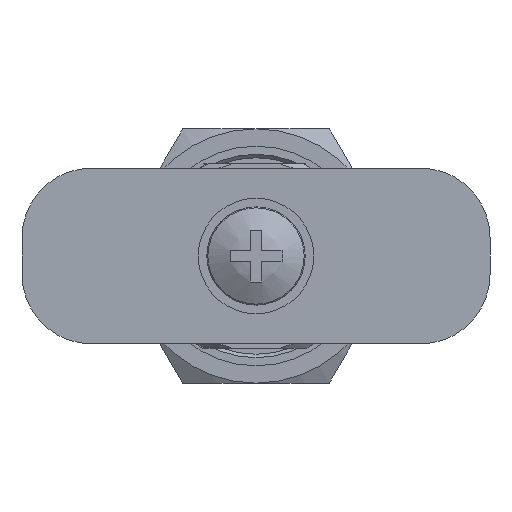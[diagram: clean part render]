
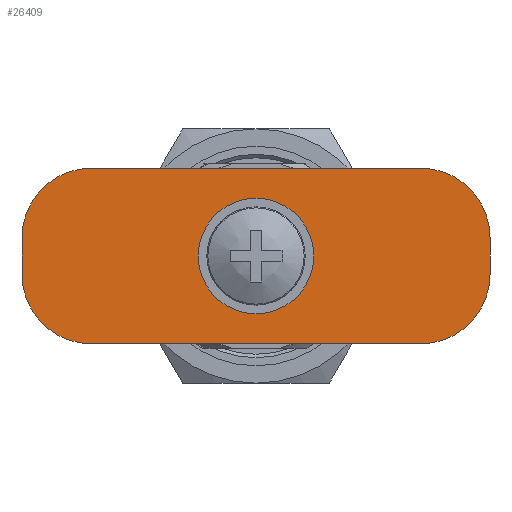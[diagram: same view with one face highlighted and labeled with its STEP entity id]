
A CAD part, front view. The second image highlights one B-rep face of the part: STEP entity #26409.
In plain terms, the highlighted planar face has unit normal (0, -1, 0) as drawn and (0, 0, 1) by its records, which use the part's own axes.
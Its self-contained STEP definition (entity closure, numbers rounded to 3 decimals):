
#502 = CARTESIAN_POINT ( 'NONE',  ( 1.6, -20.25, 1. ) ) ;
#572 = ORIENTED_EDGE ( 'NONE', *, *, #2753, .T. ) ;
#971 = DIRECTION ( 'NONE',  ( -1., 0., 0. ) ) ;
#1294 = CARTESIAN_POINT ( 'NONE',  ( 0., 0., 1. ) ) ;
#1646 = ORIENTED_EDGE ( 'NONE', *, *, #17206, .F. ) ;
#1907 = DIRECTION ( 'NONE',  ( 1., 0., 0. ) ) ;
#2309 = DIRECTION ( 'NONE',  ( 0., 0., -1. ) ) ;
#2506 = LINE ( 'NONE', #24547, #21908 ) ;
#2753 = EDGE_CURVE ( 'NONE', #8732, #21338, #5610, .T. ) ;
#3003 = ORIENTED_EDGE ( 'NONE', *, *, #15079, .F. ) ;
#3328 = CARTESIAN_POINT ( 'NONE',  ( -7.6, 20.25, 1. ) ) ;
#3741 = CARTESIAN_POINT ( 'NONE',  ( 1.6, 20.25, 1. ) ) ;
#3799 = DIRECTION ( 'NONE',  ( 1., 0., 0. ) ) ;
#4051 = LINE ( 'NONE', #19441, #30267 ) ;
#4662 = CARTESIAN_POINT ( 'NONE',  ( -7.6, -14.25, 1. ) ) ;
#4894 = EDGE_CURVE ( 'NONE', #13034, #27337, #17443, .T. ) ;
#4996 = CARTESIAN_POINT ( 'NONE',  ( 2.85, 2.117, 1. ) ) ;
#5150 = VECTOR ( 'NONE', #971, 1000. ) ;
#5225 = ORIENTED_EDGE ( 'NONE', *, *, #17050, .F. ) ;
#5482 = AXIS2_PLACEMENT_3D ( 'NONE', #24937, #9738, #27509 ) ;
#5610 = CIRCLE ( 'NONE', #13524, 3.55 ) ;
#6009 = CARTESIAN_POINT ( 'NONE',  ( -7.6, -20.25, 1. ) ) ;
#6328 = CIRCLE ( 'NONE', #23874, 6. ) ;
#6429 = VERTEX_POINT ( 'NONE', #23642 ) ;
#6609 = ORIENTED_EDGE ( 'NONE', *, *, #6930, .T. ) ;
#6912 = DIRECTION ( 'NONE',  ( 0., -1., 0. ) ) ;
#6930 = EDGE_CURVE ( 'NONE', #24825, #11674, #13029, .T. ) ;
#7976 = CIRCLE ( 'NONE', #13931, 6. ) ;
#8133 = VERTEX_POINT ( 'NONE', #502 ) ;
#8240 = FACE_OUTER_BOUND ( 'NONE', #31716, .T. ) ;
#8389 = ORIENTED_EDGE ( 'NONE', *, *, #4894, .F. ) ;
#8618 = CARTESIAN_POINT ( 'NONE',  ( -7.6, 14.25, 1. ) ) ;
#8732 = VERTEX_POINT ( 'NONE', #19474 ) ;
#9104 = EDGE_CURVE ( 'NONE', #27337, #13367, #31457, .T. ) ;
#9565 = EDGE_CURVE ( 'NONE', #16370, #31366, #4051, .T. ) ;
#9738 = DIRECTION ( 'NONE',  ( 0., 0., -1. ) ) ;
#9879 = ORIENTED_EDGE ( 'NONE', *, *, #14527, .F. ) ;
#11185 = EDGE_CURVE ( 'NONE', #8732, #11674, #2506, .T. ) ;
#11236 = VECTOR ( 'NONE', #18490, 1000. ) ;
#11674 = VERTEX_POINT ( 'NONE', #17612 ) ;
#11915 = DIRECTION ( 'NONE',  ( 1., 0., 0. ) ) ;
#13029 = CIRCLE ( 'NONE', #5482, 3.55 ) ;
#13031 = CARTESIAN_POINT ( 'NONE',  ( 2.85, 2.117, 1. ) ) ;
#13034 = VERTEX_POINT ( 'NONE', #13090 ) ;
#13090 = CARTESIAN_POINT ( 'NONE',  ( -1.6, -20.25, 1. ) ) ;
#13228 = DIRECTION ( 'NONE',  ( 0., 0., -1. ) ) ;
#13367 = VERTEX_POINT ( 'NONE', #8618 ) ;
#13454 = DIRECTION ( 'NONE',  ( 0., 0., -1. ) ) ;
#13503 = CARTESIAN_POINT ( 'NONE',  ( -1.6, -14.25, 1. ) ) ;
#13511 = DIRECTION ( 'NONE',  ( 0., -1., 0. ) ) ;
#13524 = AXIS2_PLACEMENT_3D ( 'NONE', #1294, #18973, #3799 ) ;
#13931 = AXIS2_PLACEMENT_3D ( 'NONE', #28406, #13228, #30958 ) ;
#14210 = CARTESIAN_POINT ( 'NONE',  ( -1.6, 20.25, 1. ) ) ;
#14527 = EDGE_CURVE ( 'NONE', #8133, #13034, #31337, .T. ) ;
#14531 = PLANE ( 'NONE',  #29529 ) ;
#15011 = FACE_BOUND ( 'NONE', #27282, .T. ) ;
#15079 = EDGE_CURVE ( 'NONE', #13367, #16370, #6328, .T. ) ;
#15479 = AXIS2_PLACEMENT_3D ( 'NONE', #13503, #31227, #16056 ) ;
#16056 = DIRECTION ( 'NONE',  ( -1., 0., 0. ) ) ;
#16331 = LINE ( 'NONE', #4996, #22252 ) ;
#16370 = VERTEX_POINT ( 'NONE', #14210 ) ;
#16413 = ORIENTED_EDGE ( 'NONE', *, *, #23141, .F. ) ;
#16663 = ORIENTED_EDGE ( 'NONE', *, *, #29072, .F. ) ;
#17050 = EDGE_CURVE ( 'NONE', #24825, #21338, #16331, .T. ) ;
#17076 = DIRECTION ( 'NONE',  ( 0., 0., 1. ) ) ;
#17206 = EDGE_CURVE ( 'NONE', #31366, #27243, #7976, .T. ) ;
#17443 = CIRCLE ( 'NONE', #15479, 6. ) ;
#17476 = CARTESIAN_POINT ( 'NONE',  ( -1.6, 14.25, 1. ) ) ;
#17612 = CARTESIAN_POINT ( 'NONE',  ( -2.85, -2.117, 1. ) ) ;
#18490 = DIRECTION ( 'NONE',  ( 0., 1., 0. ) ) ;
#18973 = DIRECTION ( 'NONE',  ( 0., 0., -1. ) ) ;
#19441 = CARTESIAN_POINT ( 'NONE',  ( 7.6, 20.25, 1. ) ) ;
#19474 = CARTESIAN_POINT ( 'NONE',  ( -2.85, 2.117, 1. ) ) ;
#19628 = CARTESIAN_POINT ( 'NONE',  ( 7.6, 14.25, 1. ) ) ;
#20010 = DIRECTION ( 'NONE',  ( -1., 0., 0. ) ) ;
#21338 = VERTEX_POINT ( 'NONE', #13031 ) ;
#21466 = CARTESIAN_POINT ( 'NONE',  ( 7.6, -20.25, 1. ) ) ;
#21908 = VECTOR ( 'NONE', #6912, 1000. ) ;
#22252 = VECTOR ( 'NONE', #22755, 1000. ) ;
#22755 = DIRECTION ( 'NONE',  ( 0., 1., 0. ) ) ;
#23141 = EDGE_CURVE ( 'NONE', #27243, #6429, #24996, .T. ) ;
#23642 = CARTESIAN_POINT ( 'NONE',  ( 7.6, -14.25, 1. ) ) ;
#23874 = AXIS2_PLACEMENT_3D ( 'NONE', #17476, #2309, #20010 ) ;
#24547 = CARTESIAN_POINT ( 'NONE',  ( -2.85, -2.117, 1. ) ) ;
#24825 = VERTEX_POINT ( 'NONE', #32509 ) ;
#24937 = CARTESIAN_POINT ( 'NONE',  ( 0., 0., 1. ) ) ;
#24996 = LINE ( 'NONE', #21466, #31724 ) ;
#25772 = AXIS2_PLACEMENT_3D ( 'NONE', #28636, #13454, #31183 ) ;
#26409 = ADVANCED_FACE ( 'NONE', ( #15011, #8240 ), #14531, .T. ) ;
#27085 = ORIENTED_EDGE ( 'NONE', *, *, #9104, .F. ) ;
#27108 = ORIENTED_EDGE ( 'NONE', *, *, #9565, .F. ) ;
#27243 = VERTEX_POINT ( 'NONE', #19628 ) ;
#27282 = EDGE_LOOP ( 'NONE', ( #6609, #27620, #572, #5225 ) ) ;
#27337 = VERTEX_POINT ( 'NONE', #4662 ) ;
#27509 = DIRECTION ( 'NONE',  ( 1., 0., 0. ) ) ;
#27620 = ORIENTED_EDGE ( 'NONE', *, *, #11185, .F. ) ;
#28406 = CARTESIAN_POINT ( 'NONE',  ( 1.6, 14.25, 1. ) ) ;
#28636 = CARTESIAN_POINT ( 'NONE',  ( 1.6, -14.25, 1. ) ) ;
#29072 = EDGE_CURVE ( 'NONE', #6429, #8133, #31548, .T. ) ;
#29529 = AXIS2_PLACEMENT_3D ( 'NONE', #29703, #17076, #1907 ) ;
#29703 = CARTESIAN_POINT ( 'NONE',  ( 0., 0., 1. ) ) ;
#30267 = VECTOR ( 'NONE', #11915, 1000. ) ;
#30958 = DIRECTION ( 'NONE',  ( -1., 0., 0. ) ) ;
#31183 = DIRECTION ( 'NONE',  ( -1., 0., 0. ) ) ;
#31227 = DIRECTION ( 'NONE',  ( 0., 0., -1. ) ) ;
#31337 = LINE ( 'NONE', #6009, #5150 ) ;
#31366 = VERTEX_POINT ( 'NONE', #3741 ) ;
#31457 = LINE ( 'NONE', #3328, #11236 ) ;
#31548 = CIRCLE ( 'NONE', #25772, 6. ) ;
#31716 = EDGE_LOOP ( 'NONE', ( #9879, #16663, #16413, #1646, #27108, #3003, #27085, #8389 ) ) ;
#31724 = VECTOR ( 'NONE', #13511, 1000. ) ;
#32509 = CARTESIAN_POINT ( 'NONE',  ( 2.85, -2.117, 1. ) ) ;
